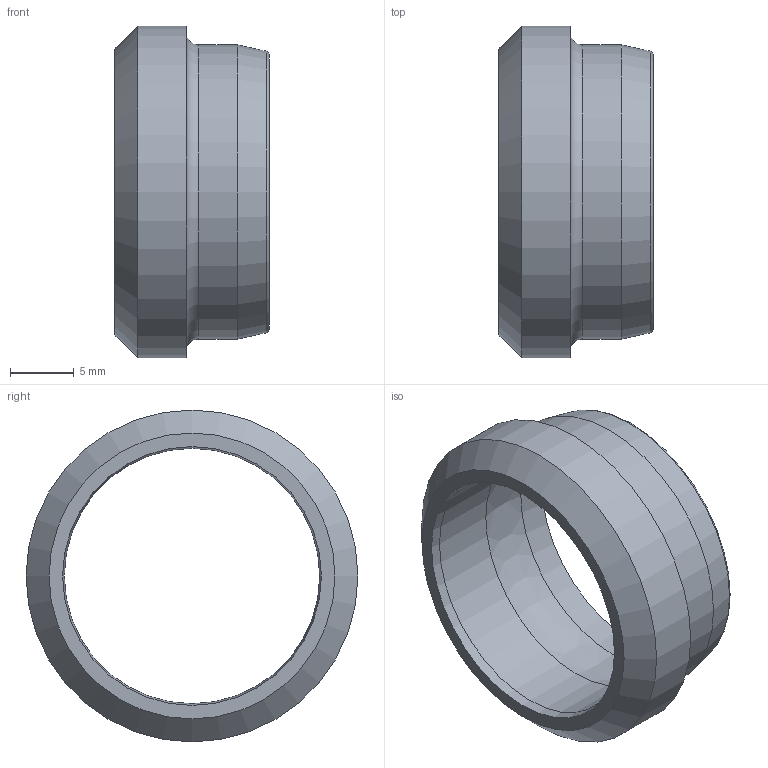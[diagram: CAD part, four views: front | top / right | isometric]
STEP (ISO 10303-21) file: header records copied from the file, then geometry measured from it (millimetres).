
FILE_DESCRIPTION( ( 'Unknown' ), '1' );
FILE_NAME( 'C:/Users/p.nanko/Desktop/3D SR/D20S.stp', 'Unknown', ( 'Peter Nanko' ), ( 'Armaturen Arndt' ), 'PSStep 14.0', 'Solid Edge ST4', ' ' );
FILE_SCHEMA( ( 'AUTOMOTIVE_DESIGN { 1 0 10303 214 1 1 1 1 }' ) );
Length unit declared in the file: millimetre
Products named in the file (1): 1001ESTERNO#0
Bounding box: 12.07 x 26 x 26 mm (x, y, z)
Volume: 1623.2 mm3; surface area: 1983.7 mm2
Topology: 1 solids, 1 shells, 15 faces, 31 edges, 20 vertices
Faces by surface type: plane 4, cone 4, torus 3, cylinder 3, bspline 1
Full cylindrical faces by diameter (mm): 20 x1, 23.05 x1, 26 x1
Entity records: 467 total; most frequent: CARTESIAN_POINT 73, DIRECTION 60, AXIS2_PLACEMENT_3D 30, EDGE_LOOP 30, ORIENTED_EDGE 30, FACE_OUTER_BOUND 22, STYLED_ITEM 15, PRESENTATION_STYLE_ASSIGNMENT 15
